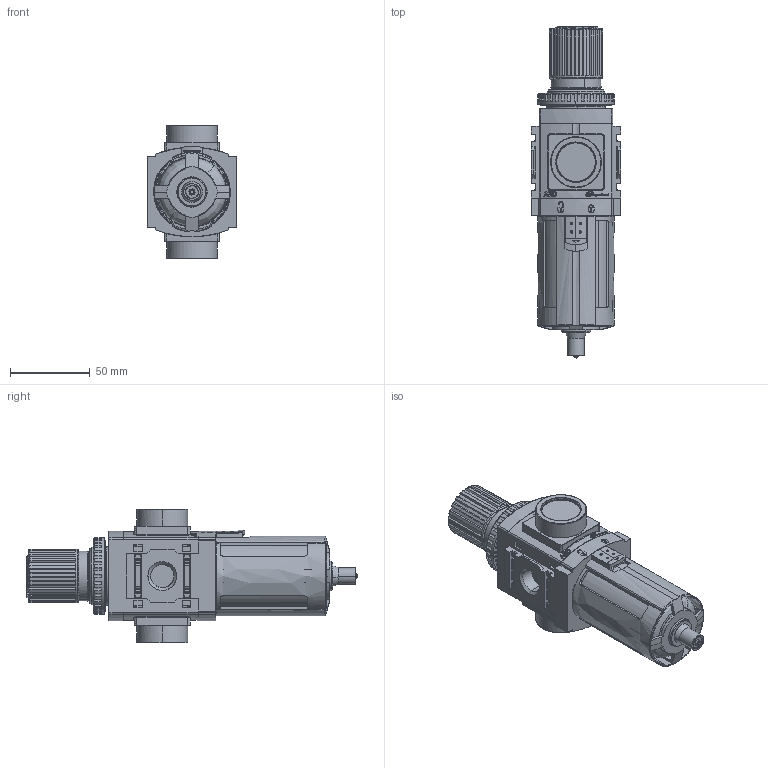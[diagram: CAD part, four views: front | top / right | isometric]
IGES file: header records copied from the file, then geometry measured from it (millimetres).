
Global section: file name: C:\Documents and Settings\szeedyk\Desktop\P392XX-X0X_01.igs; native system: NX V4.0; preprocessor: UGS NX IGES V4.0; date: 20090204.090249; units: inch
Bounding box: 56 x 208.46 x 84.1 mm (x, y, z)
Surface area: 65651 mm2 (no closed solid volume)
Topology: 0 solids, 0 shells, 1793 faces, 10586 edges, 10583 vertices
Faces by surface type: bspline 1793
